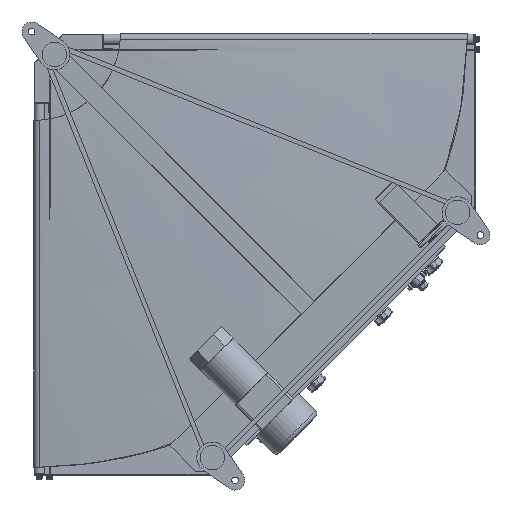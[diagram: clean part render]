
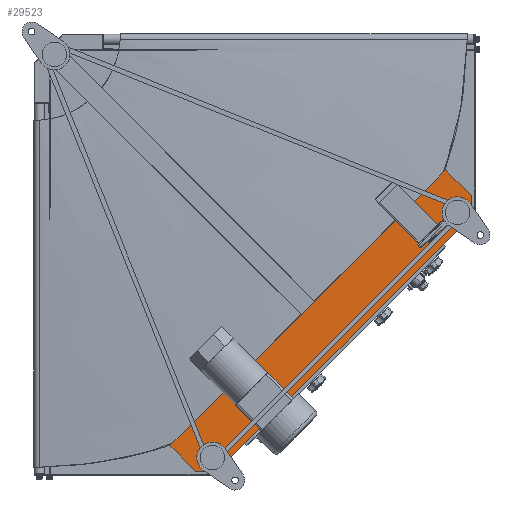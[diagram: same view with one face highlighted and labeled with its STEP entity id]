
A CAD part, front view. The second image highlights one B-rep face of the part: STEP entity #29523.
In plain terms, the highlighted planar face has unit normal (0, -1, 0).
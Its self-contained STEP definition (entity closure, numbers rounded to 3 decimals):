
#946 = ORIENTED_EDGE ( 'NONE', *, *, #38159, .F. ) ;
#2077 = CARTESIAN_POINT ( 'NONE',  ( 315.723, -167.5, -856.66 ) ) ;
#2413 = LINE ( 'NONE', #39043, #21456 ) ;
#2591 = CARTESIAN_POINT ( 'NONE',  ( 856.66, -167.5, -358.15 ) ) ;
#4455 = VERTEX_POINT ( 'NONE', #15515 ) ;
#4919 = VECTOR ( 'NONE', #17565, 1000. ) ;
#5307 = LINE ( 'NONE', #6917, #19527 ) ;
#6917 = CARTESIAN_POINT ( 'NONE',  ( 358.15, -167.5, -856.66 ) ) ;
#9643 = EDGE_CURVE ( 'NONE', #25506, #35023, #18499, .T. ) ;
#10043 = DIRECTION ( 'NONE',  ( 0., 0., 1. ) ) ;
#10533 = VECTOR ( 'NONE', #40395, 1000. ) ;
#10692 = DIRECTION ( 'NONE',  ( -1., 0., 0. ) ) ;
#12649 = EDGE_CURVE ( 'NONE', #16328, #4455, #5307, .T. ) ;
#13916 = ORIENTED_EDGE ( 'NONE', *, *, #9643, .F. ) ;
#15335 = CARTESIAN_POINT ( 'NONE',  ( 266.226, -167.5, -807.162 ) ) ;
#15490 = VECTOR ( 'NONE', #23369, 1000. ) ;
#15515 = CARTESIAN_POINT ( 'NONE',  ( 358.15, -167.5, -856.66 ) ) ;
#16328 = VERTEX_POINT ( 'NONE', #33789 ) ;
#17539 = CARTESIAN_POINT ( 'NONE',  ( 807.162, -167.5, -266.226 ) ) ;
#17565 = DIRECTION ( 'NONE',  ( 0.707, 0., 0.707 ) ) ;
#18499 = LINE ( 'NONE', #17539, #24816 ) ;
#19527 = VECTOR ( 'NONE', #35157, 1000. ) ;
#19667 = EDGE_CURVE ( 'NONE', #24346, #38857, #26132, .T. ) ;
#21133 = ORIENTED_EDGE ( 'NONE', *, *, #35698, .F. ) ;
#21241 = ORIENTED_EDGE ( 'NONE', *, *, #12649, .F. ) ;
#21456 = VECTOR ( 'NONE', #10692, 1000. ) ;
#21515 = CARTESIAN_POINT ( 'NONE',  ( 856.66, -167.5, -315.723 ) ) ;
#22909 = EDGE_LOOP ( 'NONE', ( #21133, #13916, #946, #31163, #40070, #21241 ) ) ;
#23014 = CARTESIAN_POINT ( 'NONE',  ( 0., -167.5, 0. ) ) ;
#23369 = DIRECTION ( 'NONE',  ( -0.707, 0., 0.707 ) ) ;
#24106 = EDGE_CURVE ( 'NONE', #4455, #24346, #2413, .T. ) ;
#24346 = VERTEX_POINT ( 'NONE', #2077 ) ;
#24816 = VECTOR ( 'NONE', #39476, 1000. ) ;
#25506 = VERTEX_POINT ( 'NONE', #33824 ) ;
#25593 = PLANE ( 'NONE',  #38188 ) ;
#26132 = LINE ( 'NONE', #26239, #15490 ) ;
#26239 = CARTESIAN_POINT ( 'NONE',  ( 266.226, -167.5, -807.162 ) ) ;
#26693 = CARTESIAN_POINT ( 'NONE',  ( 266.226, -167.5, -807.162 ) ) ;
#28582 = LINE ( 'NONE', #2591, #10533 ) ;
#28781 = DIRECTION ( 'NONE',  ( 0., 1., 0. ) ) ;
#29323 = FACE_OUTER_BOUND ( 'NONE', #22909, .T. ) ;
#29523 = ADVANCED_FACE ( 'NONE', ( #29323 ), #25593, .F. ) ;
#31163 = ORIENTED_EDGE ( 'NONE', *, *, #19667, .F. ) ;
#33789 = CARTESIAN_POINT ( 'NONE',  ( 856.66, -167.5, -358.15 ) ) ;
#33824 = CARTESIAN_POINT ( 'NONE',  ( 807.162, -167.5, -266.226 ) ) ;
#35023 = VERTEX_POINT ( 'NONE', #21515 ) ;
#35157 = DIRECTION ( 'NONE',  ( -0.707, 0., -0.707 ) ) ;
#35698 = EDGE_CURVE ( 'NONE', #35023, #16328, #28582, .T. ) ;
#38159 = EDGE_CURVE ( 'NONE', #38857, #25506, #38277, .T. ) ;
#38188 = AXIS2_PLACEMENT_3D ( 'NONE', #23014, #28781, #10043 ) ;
#38277 = LINE ( 'NONE', #26693, #4919 ) ;
#38857 = VERTEX_POINT ( 'NONE', #15335 ) ;
#39043 = CARTESIAN_POINT ( 'NONE',  ( 315.723, -167.5, -856.66 ) ) ;
#39476 = DIRECTION ( 'NONE',  ( 0.707, 0., -0.707 ) ) ;
#40070 = ORIENTED_EDGE ( 'NONE', *, *, #24106, .F. ) ;
#40395 = DIRECTION ( 'NONE',  ( 0., 0., -1. ) ) ;
